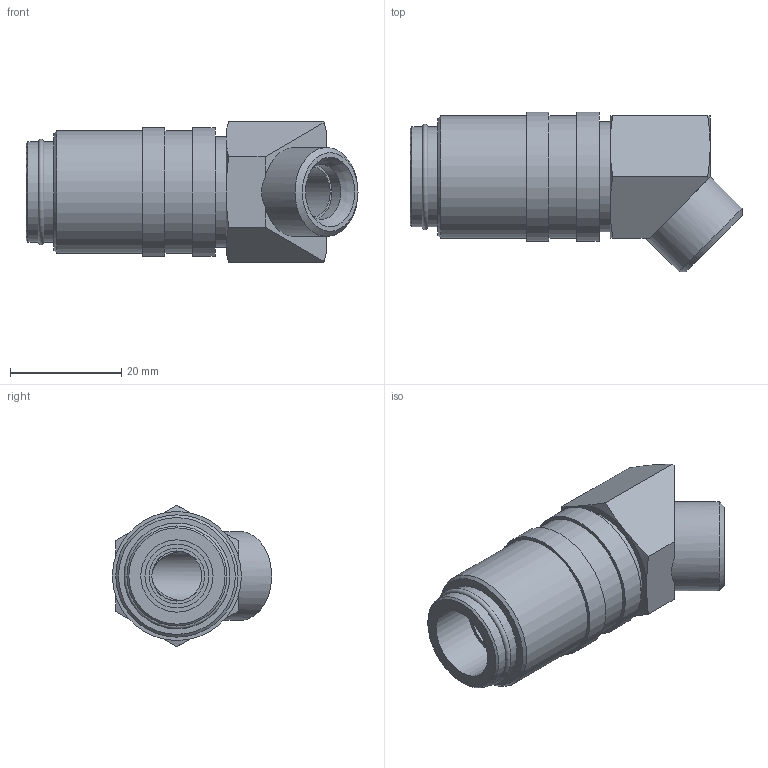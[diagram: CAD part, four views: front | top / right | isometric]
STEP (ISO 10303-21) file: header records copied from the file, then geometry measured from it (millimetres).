
FILE_DESCRIPTION( ( 'STEP AP203' ), ' ' );
FILE_NAME( 'p:/temp/worker_15/4976_5336/app_45_02016041908393167601386192d056f_000000_00_00_000000/format_0/MK22013M161,5.stp', '2016-04-19T06:39:32', ( '' ), ( '' ), ' ', 'PARTsolutions', ' ' );
FILE_SCHEMA( ( 'CONFIG_CONTROL_DESIGN' ) );
Length unit declared in the file: millimetre
Products named in the file (1): _MK22013M161,5
Bounding box: 59.71 x 28.63 x 25.4 mm (x, y, z)
Volume: 16620.6 mm3; surface area: 7900.8 mm2
Topology: 1 solids, 1 shells, 58 faces, 110 edges, 64 vertices
Faces by surface type: plane 25, cylinder 18, cone 14, torus 1
Full cylindrical faces by diameter (mm): 9 x2, 9.9 x1, 10 x1, 11.5 x1, 13 x1, 16 x1, 18 x2, 19.8 x1, 22 x2, 23.2 x2
Entity records: 1462 total; most frequent: CARTESIAN_POINT 317, DIRECTION 244, ORIENTED_EDGE 182, AXIS2_PLACEMENT_3D 116, EDGE_CURVE 91, EDGE_LOOP 89, FACE_OUTER_BOUND 73, VERTEX_POINT 65
